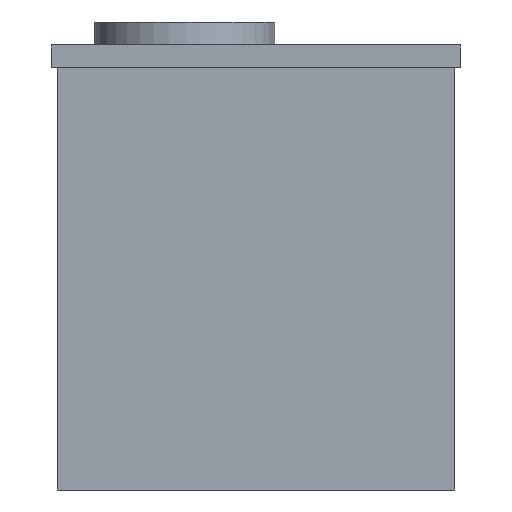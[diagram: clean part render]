
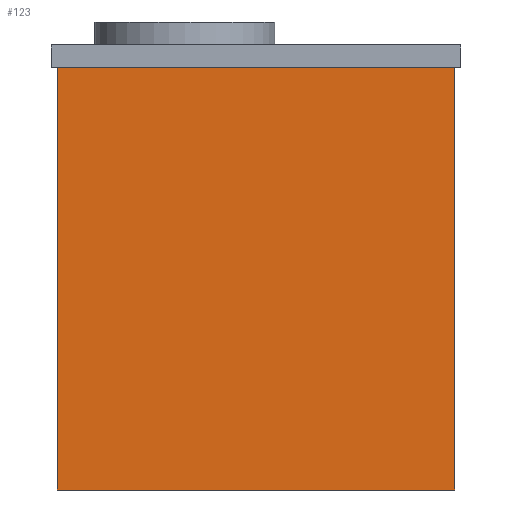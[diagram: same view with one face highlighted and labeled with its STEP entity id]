
A CAD part, front view. The second image highlights one B-rep face of the part: STEP entity #123.
In plain terms, the highlighted planar face has unit normal (0, -1, 0).
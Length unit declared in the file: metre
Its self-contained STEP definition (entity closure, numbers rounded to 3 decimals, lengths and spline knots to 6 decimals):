
#123=ADVANCED_FACE('0:36',(#294),#295,.T.);
#294=FACE_OUTER_BOUND('',#513,.T.);
#295=PLANE('',#514);
#513=EDGE_LOOP('',(#1301,#1302,#1303,#1304));
#514=AXIS2_PLACEMENT_3D('',#1305,#1306,#1307);
#1301=ORIENTED_EDGE('',*,*,#1614,.F.);
#1302=ORIENTED_EDGE('',*,*,#1615,.T.);
#1303=ORIENTED_EDGE('',*,*,#1616,.F.);
#1304=ORIENTED_EDGE('',*,*,#1598,.F.);
#1305=CARTESIAN_POINT('',(0.259,-0.974,0.0));
#1306=DIRECTION('',(0.0,-1.0,0.0));
#1307=DIRECTION('',(0.0,0.0,-1.0));
#1598=EDGE_CURVE('0:126',#1946,#1948,#1949,.F.);
#1614=EDGE_CURVE('0:117',#1974,#1946,#1975,.F.);
#1615=EDGE_CURVE('0:120',#1974,#1976,#1977,.T.);
#1616=EDGE_CURVE('0:123',#1948,#1976,#1978,.T.);
#1946=VERTEX_POINT('',#2716);
#1948=VERTEX_POINT('',#2719);
#1949=LINE('',#2720,#2721);
#1974=VERTEX_POINT('',#2757);
#1975=LINE('',#2758,#2759);
#1976=VERTEX_POINT('',#2760);
#1977=LINE('',#2761,#2762);
#1978=LINE('',#2763,#2764);
#2716=CARTESIAN_POINT('',(-0.187,-0.974,-0.126));
#2719=CARTESIAN_POINT('',(-0.187,-0.974,0.612));
#2720=CARTESIAN_POINT('',(-0.187,-0.974,0.0));
#2721=VECTOR('',#2936,1.0);
#2757=CARTESIAN_POINT('',(0.508,-0.974,-0.126));
#2758=CARTESIAN_POINT('',(0.1295,-0.974,-0.126));
#2759=VECTOR('',#2960,1.0);
#2760=CARTESIAN_POINT('',(0.508,-0.974,0.612));
#2761=CARTESIAN_POINT('',(0.508,-0.974,0.0));
#2762=VECTOR('',#2961,1.0);
#2763=CARTESIAN_POINT('',(0.1295,-0.974,0.612));
#2764=VECTOR('',#2962,1.0);
#2936=DIRECTION('',(-0.0,-0.0,-1.0));
#2960=DIRECTION('',(1.0,0.0,-0.0));
#2961=DIRECTION('',(0.0,0.0,1.0));
#2962=DIRECTION('',(1.0,0.0,0.0));
